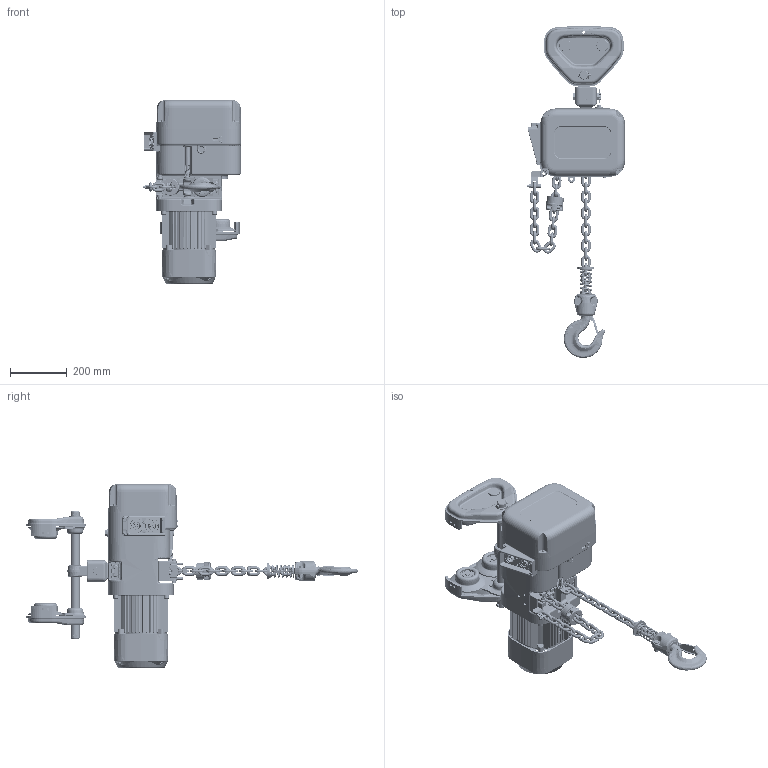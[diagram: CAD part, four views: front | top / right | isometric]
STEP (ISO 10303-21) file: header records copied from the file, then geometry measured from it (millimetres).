
FILE_DESCRIPTION (( 'STEP AP214' ), '1' );
FILE_NAME ('NER2P020L.STEP', '2026-08-04T18:24:35', ( '' ), ( '' ), 'SwSTEP 2.0', 'SolidWorks 2026', '' );
FILE_SCHEMA (( 'AUTOMOTIVE_DESIGN' ));
Length unit declared in the file: inch
Products named in the file (72): ER2ES9121; ER2EL9105; Socket Head Cap Screw_AM_B18.3.1M - 5 x 0.8 x 25 Hex SHCS -- 25NHX; 6304Z Bearing; ER2ES9104_ER2ES9104; ER2ES9123; 90912152_B18.3.1M - 8 x 1.25 x 40 Hex SHCS -- 40CHX; J1WS011-20100_Rectangular section spring washer BS 4464 - 16 (Type B); ES857005S; basic external retaining ring_am_9047120; T7GA0205112; ER2BHM20S9A5; ER2ES2015; ER2ES1002; 90912116_90912116; MS561010; ER2ES9337; ER1ES9053; LCER2020NP-FG_18 LINKS; ER2CS9357; LCER2020NP (SHAPED 2); E3S112003; ER2ES9011; 9091234_B18.3.1M - 5 x 0.8 x 45 Hex SHCS -- 22CHX; T6G5102020; split pin (metric) as_9009437; PTS2020_11" FLANGE; NER2P020L; ES047015; ER2EL9103; E3S111003; T6GA0209113; ER2DS9107_ER2DS9107; ER1ES9054; ER1BS9535; T7G117020; ER1ES1041; single coil rectangular section spring washer_bsi_9012711; ER2ES1011-FG; ER2ES9186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
Assembly tree (157 placements, depth 5):
  NER2P020L
    PTS2020_11" FLANGE
      T7GA0205112  x2
        T6GA0209112
        T6GA0209113
        T6GA0209103
        T7GA0209141
        T7GA0209142
      T6G5102020  x4
        T6GA0209102
        6304Z Bearing
      MS104020  x4
      basic external retaining ring_am_9047120  x4
      T6G156020  x2
      T7G117020
      9009432_9009432  x2
      T7GA0209181
      T6G800020P
    NER2020L_WITH END SUSPENDER KIT (PUSH TROLLEY)
      ER2ES9104_ER2ES9104
      ER2DS9107_ER2DS9107
      ER2EL9103
      ER2EL9105
      ER2ES9101
      ER2ES9121  x2
      ER2ES9123
      Socket Head Cap Screw_AM_B18.3.1M - 5 x 0.8 x 25 Hex SHCS -- 25NHX  x5
      ER2ES9186
      ER2ES9331
      ER2EL9338
      ER2ES9337
      ER2CS9357
      ER2CS9511
      LCER2020NP-FG_18 LINKS
        LCER2020NP  x18
      ER2ES1011-FG
        ER2ES9011
        ER2ES1002
        ER2ES2015
          ER2ES9015  x2
          J1BY9-1003526_B18.2.3.1M - Hex cap screw, M10 x 1.5 x 35 --35C  x2
          J1WS011-20100_Rectangular section spring washer BS 4464 - 16 (Type B)  x2
          9093427_9093427  x2
      ER2ES2523
      ER2CS2564
      E3S112003
      E3S111003
      ES127005S
      ER1BS9135
      90912116_90912116  x4
      9091234_B18.3.1M - 5 x 0.8 x 45 Hex SHCS -- 22CHX  x4
      single coil rectangular section spring washer_bsi_9012711  x3
      ES047015
      ER1ES9054
      J1BG10504022_J1BG10504022  x4
      ER1BS9535
      M6F554010  x2
      MS561010  x6
      ES558003  x8
      ER2BHM20S9A5
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Bounding box: 345 x 1169.57 x 646 mm (x, y, z)
Volume: 23639339.6 mm3; surface area: 2765523.4 mm2
Topology: 170 solids, 187 shells, 8757 faces, 22527 edges, 14195 vertices
Faces by surface type: plane 3373, cylinder 2916, torus 1007, bspline 658, cone 592, sphere 211
Entity records: 224385 total; most frequent: CARTESIAN_POINT 81828, ORIENTED_EDGE 28888, DIRECTION 28630, EDGE_CURVE 14446, AXIS2_PLACEMENT_3D 11072, VERTEX_POINT 9232, LINE 6486, VECTOR 6486
